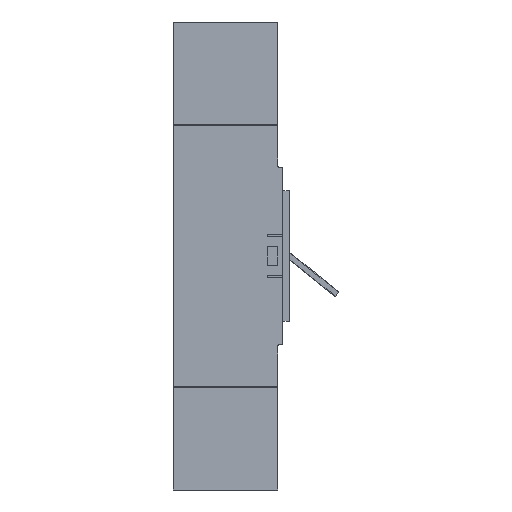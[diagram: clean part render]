
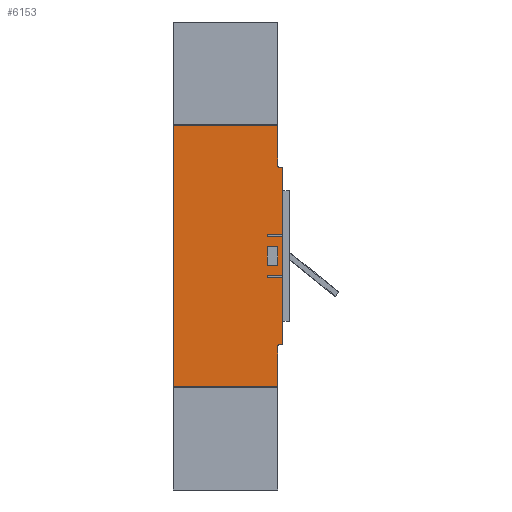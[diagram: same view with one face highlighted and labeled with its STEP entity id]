
A CAD part, left-side view. The second image highlights one B-rep face of the part: STEP entity #6153.
In plain terms, the highlighted planar face has unit normal (-1, 0, 0).
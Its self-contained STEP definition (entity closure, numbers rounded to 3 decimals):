
#161=CIRCLE('',#6543,1.);
#162=CIRCLE('',#6544,1.);
#163=CIRCLE('',#6545,1.);
#164=CIRCLE('',#6546,1.);
#336=FACE_BOUND('',#1060,.T.);
#700=FACE_OUTER_BOUND('',#1059,.T.);
#1059=EDGE_LOOP('',(#5455,#5456,#5457,#5458,#5459,#5460,#5461,#5462,#5463,
#5464,#5465,#5466,#5467,#5468,#5469,#5470,#5471,#5472,#5473,#5474));
#1060=EDGE_LOOP('',(#5475,#5476,#5477,#5478));
#1082=LINE('',#8040,#1758);
#1086=LINE('',#8048,#1762);
#1089=LINE('',#8054,#1765);
#1093=LINE('',#8063,#1769);
#1097=LINE('',#8071,#1773);
#1100=LINE('',#8077,#1776);
#1104=LINE('',#8086,#1780);
#1108=LINE('',#8094,#1784);
#1111=LINE('',#8100,#1787);
#1114=LINE('',#8105,#1790);
#1116=LINE('',#8110,#1792);
#1128=LINE('',#8133,#1804);
#1129=LINE('',#8134,#1805);
#1359=LINE('',#8850,#2035);
#1730=LINE('',#10403,#2406);
#1737=LINE('',#10417,#2413);
#1742=LINE('',#10437,#2418);
#1743=LINE('',#10440,#2419);
#1744=LINE('',#10442,#2420);
#1745=LINE('',#10446,#2421);
#1758=VECTOR('',#6572,15.);
#1762=VECTOR('',#6578,2.);
#1765=VECTOR('',#6583,15.);
#1769=VECTOR('',#6591,15.);
#1773=VECTOR('',#6597,2.);
#1776=VECTOR('',#6602,15.);
#1780=VECTOR('',#6610,10.);
#1784=VECTOR('',#6616,18.4);
#1787=VECTOR('',#6621,10.);
#1790=VECTOR('',#6626,18.4);
#1792=VECTOR('',#6632,64.55);
#1804=VECTOR('',#6644,64.55);
#1805=VECTOR('',#6645,38.4);
#2035=VECTOR('',#7091,255.);
#2406=VECTOR('',#7936,102.);
#2413=VECTOR('',#7953,102.);
#2418=VECTOR('',#7972,3.);
#2419=VECTOR('',#7975,39.75);
#2420=VECTOR('',#7976,39.75);
#2421=VECTOR('',#7979,3.);
#2434=VERTEX_POINT('',#8038);
#2435=VERTEX_POINT('',#8039);
#2438=VERTEX_POINT('',#8047);
#2440=VERTEX_POINT('',#8053);
#2442=VERTEX_POINT('',#8061);
#2443=VERTEX_POINT('',#8062);
#2446=VERTEX_POINT('',#8070);
#2448=VERTEX_POINT('',#8076);
#2450=VERTEX_POINT('',#8084);
#2451=VERTEX_POINT('',#8085);
#2454=VERTEX_POINT('',#8093);
#2456=VERTEX_POINT('',#8099);
#2458=VERTEX_POINT('',#8109);
#2469=VERTEX_POINT('',#8131);
#2722=VERTEX_POINT('',#8847);
#2723=VERTEX_POINT('',#8849);
#2989=VERTEX_POINT('',#10401);
#2991=VERTEX_POINT('',#10415);
#2998=VERTEX_POINT('',#10434);
#2999=VERTEX_POINT('',#10436);
#3000=VERTEX_POINT('',#10438);
#3001=VERTEX_POINT('',#10441);
#3002=VERTEX_POINT('',#10443);
#3003=VERTEX_POINT('',#10445);
#3008=EDGE_CURVE('',#2434,#2435,#1082,.T.);
#3012=EDGE_CURVE('',#2438,#2434,#1086,.T.);
#3015=EDGE_CURVE('',#2440,#2438,#1089,.T.);
#3019=EDGE_CURVE('',#2442,#2443,#1093,.T.);
#3023=EDGE_CURVE('',#2446,#2442,#1097,.T.);
#3026=EDGE_CURVE('',#2448,#2446,#1100,.T.);
#3030=EDGE_CURVE('',#2450,#2451,#1104,.T.);
#3034=EDGE_CURVE('',#2454,#2450,#1108,.T.);
#3037=EDGE_CURVE('',#2456,#2454,#1111,.T.);
#3040=EDGE_CURVE('',#2451,#2456,#1114,.T.);
#3042=EDGE_CURVE('',#2440,#2458,#1116,.T.);
#3054=EDGE_CURVE('',#2469,#2443,#1128,.T.);
#3055=EDGE_CURVE('',#2448,#2435,#1129,.T.);
#3359=EDGE_CURVE('',#2722,#2723,#1359,.T.);
#3836=EDGE_CURVE('',#2722,#2989,#1730,.T.);
#3843=EDGE_CURVE('',#2991,#2723,#1737,.T.);
#3852=EDGE_CURVE('',#2998,#2469,#161,.T.);
#3853=EDGE_CURVE('',#2999,#2998,#1742,.T.);
#3854=EDGE_CURVE('',#3000,#2999,#162,.T.);
#3855=EDGE_CURVE('',#2991,#3000,#1743,.T.);
#3856=EDGE_CURVE('',#3001,#2989,#1744,.T.);
#3857=EDGE_CURVE('',#3002,#3001,#163,.T.);
#3858=EDGE_CURVE('',#3003,#3002,#1745,.T.);
#3859=EDGE_CURVE('',#2458,#3003,#164,.T.);
#5455=ORIENTED_EDGE('',*,*,#3008,.T.);
#5456=ORIENTED_EDGE('',*,*,#3055,.F.);
#5457=ORIENTED_EDGE('',*,*,#3026,.T.);
#5458=ORIENTED_EDGE('',*,*,#3023,.T.);
#5459=ORIENTED_EDGE('',*,*,#3019,.T.);
#5460=ORIENTED_EDGE('',*,*,#3054,.F.);
#5461=ORIENTED_EDGE('',*,*,#3852,.F.);
#5462=ORIENTED_EDGE('',*,*,#3853,.F.);
#5463=ORIENTED_EDGE('',*,*,#3854,.F.);
#5464=ORIENTED_EDGE('',*,*,#3855,.F.);
#5465=ORIENTED_EDGE('',*,*,#3843,.T.);
#5466=ORIENTED_EDGE('',*,*,#3359,.F.);
#5467=ORIENTED_EDGE('',*,*,#3836,.T.);
#5468=ORIENTED_EDGE('',*,*,#3856,.F.);
#5469=ORIENTED_EDGE('',*,*,#3857,.F.);
#5470=ORIENTED_EDGE('',*,*,#3858,.F.);
#5471=ORIENTED_EDGE('',*,*,#3859,.F.);
#5472=ORIENTED_EDGE('',*,*,#3042,.F.);
#5473=ORIENTED_EDGE('',*,*,#3015,.T.);
#5474=ORIENTED_EDGE('',*,*,#3012,.T.);
#5475=ORIENTED_EDGE('',*,*,#3030,.T.);
#5476=ORIENTED_EDGE('',*,*,#3040,.T.);
#5477=ORIENTED_EDGE('',*,*,#3037,.T.);
#5478=ORIENTED_EDGE('',*,*,#3034,.T.);
#5829=PLANE('',#6542);
#6153=ADVANCED_FACE('',(#700,#336),#5829,.F.);
#6542=AXIS2_PLACEMENT_3D('',#10433,#7968,#7969);
#6543=AXIS2_PLACEMENT_3D('',#10435,#7970,#7971);
#6544=AXIS2_PLACEMENT_3D('',#10439,#7973,#7974);
#6545=AXIS2_PLACEMENT_3D('',#10444,#7977,#7978);
#6546=AXIS2_PLACEMENT_3D('',#10447,#7980,#7981);
#6572=DIRECTION('',(0.,-1.,0.));
#6578=DIRECTION('',(0.,0.,1.));
#6583=DIRECTION('',(0.,1.,0.));
#6591=DIRECTION('',(0.,-1.,0.));
#6597=DIRECTION('',(0.,0.,1.));
#6602=DIRECTION('',(0.,1.,0.));
#6610=DIRECTION('',(0.,-1.,0.));
#6616=DIRECTION('',(0.,0.,1.));
#6621=DIRECTION('',(0.,1.,0.));
#6626=DIRECTION('',(0.,0.,-1.));
#6632=DIRECTION('',(0.,0.,-1.));
#6644=DIRECTION('',(0.,0.,-1.));
#6645=DIRECTION('',(0.,0.,-1.));
#7091=DIRECTION('',(0.,0.,1.));
#7936=DIRECTION('',(0.,-1.,0.));
#7953=DIRECTION('',(0.,1.,0.));
#7968=DIRECTION('center_axis',(1.,0.,0.));
#7969=DIRECTION('ref_axis',(0.,0.,1.));
#7970=DIRECTION('center_axis',(1.,0.,0.));
#7971=DIRECTION('ref_axis',(0.,-0.707,0.707));
#7972=DIRECTION('',(0.,-1.,0.));
#7973=DIRECTION('center_axis',(-1.,0.,0.));
#7974=DIRECTION('ref_axis',(0.,0.707,-0.707));
#7975=DIRECTION('',(0.,0.,-1.));
#7976=DIRECTION('',(0.,0.,-1.));
#7977=DIRECTION('center_axis',(-1.,0.,0.));
#7978=DIRECTION('ref_axis',(0.,0.707,0.707));
#7979=DIRECTION('',(0.,1.,0.));
#7980=DIRECTION('center_axis',(1.,0.,0.));
#7981=DIRECTION('ref_axis',(0.,-0.707,-0.707));
#8038=CARTESIAN_POINT('',(0.,93.948,168.58));
#8039=CARTESIAN_POINT('',(0.,78.948,168.58));
#8040=CARTESIAN_POINT('',(0.,106.667,168.58));
#8047=CARTESIAN_POINT('',(0.,93.948,166.58));
#8048=CARTESIAN_POINT('',(0.,93.948,175.77));
#8053=CARTESIAN_POINT('',(0.,78.948,166.58));
#8054=CARTESIAN_POINT('',(0.,99.167,166.58));
#8061=CARTESIAN_POINT('',(0.,93.948,208.98));
#8062=CARTESIAN_POINT('',(0.,78.948,208.98));
#8063=CARTESIAN_POINT('',(0.,106.667,208.98));
#8070=CARTESIAN_POINT('',(0.,93.948,206.98));
#8071=CARTESIAN_POINT('',(0.,93.948,195.97));
#8076=CARTESIAN_POINT('',(0.,78.948,206.98));
#8077=CARTESIAN_POINT('',(0.,99.167,206.98));
#8084=CARTESIAN_POINT('',(0.,93.948,196.98));
#8085=CARTESIAN_POINT('',(0.,83.948,196.98));
#8086=CARTESIAN_POINT('',(0.,106.667,196.98));
#8093=CARTESIAN_POINT('',(0.,93.948,178.58));
#8094=CARTESIAN_POINT('',(0.,93.948,181.77));
#8099=CARTESIAN_POINT('',(0.,83.948,178.58));
#8100=CARTESIAN_POINT('',(0.,101.667,178.58));
#8105=CARTESIAN_POINT('',(0.,83.948,190.97));
#8109=CARTESIAN_POINT('',(0.,78.948,102.03));
#8110=CARTESIAN_POINT('',(0.,78.948,274.53));
#8131=CARTESIAN_POINT('',(0.,78.948,273.53));
#8133=CARTESIAN_POINT('',(0.,78.948,274.53));
#8134=CARTESIAN_POINT('',(0.,78.948,274.53));
#8847=CARTESIAN_POINT('',(0.,185.948,60.28));
#8849=CARTESIAN_POINT('',(0.,185.948,315.28));
#8850=CARTESIAN_POINT('',(0.,185.948,59.28));
#10401=CARTESIAN_POINT('',(0.,83.948,60.28));
#10403=CARTESIAN_POINT('',(0.,152.667,60.28));
#10415=CARTESIAN_POINT('',(0.,83.948,315.28));
#10417=CARTESIAN_POINT('',(0.,152.667,315.28));
#10433=CARTESIAN_POINT('Origin',(0.,119.385,184.96));
#10434=CARTESIAN_POINT('',(0.,79.948,274.53));
#10435=CARTESIAN_POINT('Origin',(0.,79.948,273.53));
#10436=CARTESIAN_POINT('',(0.,82.948,274.53));
#10437=CARTESIAN_POINT('',(0.,83.948,274.53));
#10438=CARTESIAN_POINT('',(0.,83.948,275.53));
#10439=CARTESIAN_POINT('Origin',(0.,82.948,275.53));
#10440=CARTESIAN_POINT('',(0.,83.948,316.28));
#10441=CARTESIAN_POINT('',(0.,83.948,100.03));
#10442=CARTESIAN_POINT('',(0.,83.948,101.03));
#10443=CARTESIAN_POINT('',(0.,82.948,101.03));
#10444=CARTESIAN_POINT('Origin',(0.,82.948,100.03));
#10445=CARTESIAN_POINT('',(0.,79.948,101.03));
#10446=CARTESIAN_POINT('',(0.,78.948,101.03));
#10447=CARTESIAN_POINT('Origin',(0.,79.948,102.03));
